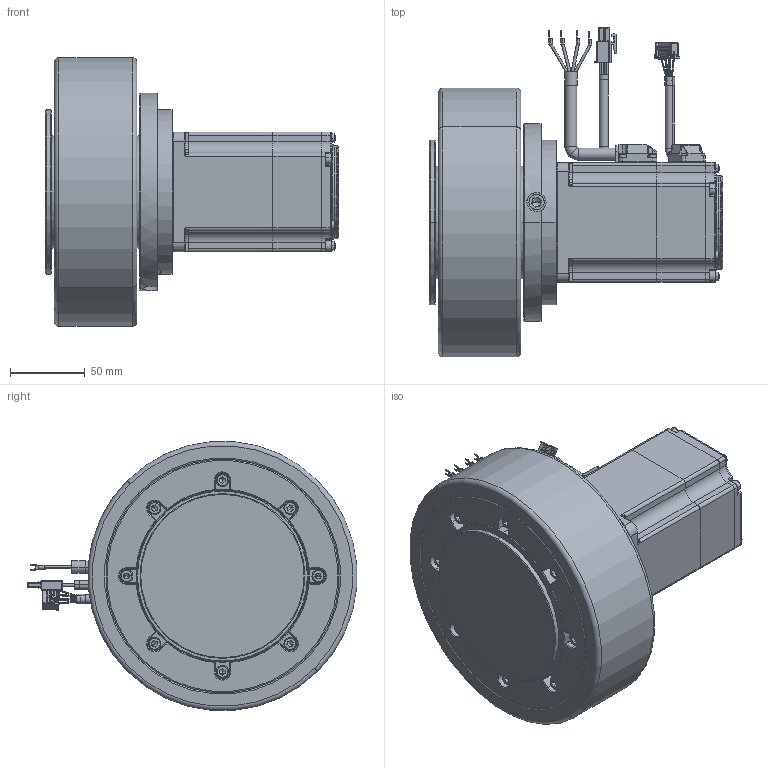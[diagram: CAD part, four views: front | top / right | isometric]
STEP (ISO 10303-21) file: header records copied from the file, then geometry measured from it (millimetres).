
FILE_DESCRIPTION((''),'2;1');
FILE_NAME('MSD180--075-30GSL-B_ASM','2026-05-29T14:36:40',('MS28159'),(''),'CREO PARAMETRIC BY PTC INC, 2018100','CREO PARAMETRIC BY PTC INC, 2018100','');
FILE_SCHEMA(('CONFIG_CONTROL_DESIGN'));
Length unit declared in the file: millimetre
Products named in the file (51): HEXAGON_SOCKET_HEAD_CAP_SC-5242; HEXAGON_SOCKET_HEAD_CAP_S-11438; SINGLE_COIL_LOCK_WASHERS_LIGH_3; HEX_SOCKET_SET_SCREWS_WITH_FL_2; AEQ-115-H55-W180_1; AEQ-115N-L2-19-1_X2_FF08_X0_1_2; 090-19_X2_8F7495017D275957_X0_2; AEQ-115N-016-19-1-H55-W180_ASM__ASM; AEQ-115N-016-10-19-2-H55-W180_A_ASM; HEXAGONSOCKETHEADC0038_1_1; _1_C-172165-1-H-3D0001_1_1_2; HEXAGONSOCKETHEADC0039_1_1; _1-SOLID10001_1_1_2; _1_-1-SOLID10001_1_1_2; HEXAGONSOCKETHEADC0040_1_1; CROSSRECESSEDSMALL0009_1_1_2; _1_5016461600-1-SO0001_1_1_2; CROSSRECESSEDSMALL0010_1_1_2; _1_AGV-2-SOLID10001_1_1_2; HEXAGONSOCKETHEADC0041_1_1; 4219122001590A0-1-0002_1_1; 2-1-SOLID100_1_1; CROSSRECESSEDCOUNT0004_1_1_2; CROSSRECESSEDPANHE0005_1_1; _1_--1-SOLID10001_1_1_2; _1_-1-SOLID10002_1_1_2; HEXAGONSOCKETHEADC0042_1_1; _1_AGV-1-SOLID10001_1_1_2; _1_AGV-3-SOLID10001_1_1_2; HEXAGONSOCKETHEADC0043_1_1; 3698154002184-1-SOLID1_1_1; _1-SOLID10002_1_1; HEXAGONSOCKETHEADC0044_1_1; HEXAGONSOCKETHEADC0016_1_1_2; CROSSRECESSEDPANHE0006_1_1; CROSSRECESSEDPANHE0007_1_1; CROSSRECESSEDPANHE0008_1_1; CROSSRECESSEDSMALL0013_1_1_2; _1_AGV-4-SOLID10001_1_1_2; _1_--1-SOLID10002_1_1_2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
Assembly tree (65 placements, depth 4):
  MSD180--075-30GSL-B_ASM
    AEQ-115N-016-10-19-2-H55-W180_A_ASM
      AEQ-115N-016-19-1-H55-W180_ASM__ASM
        HEXAGON_SOCKET_HEAD_CAP_SC-5242  x8
        HEXAGON_SOCKET_HEAD_CAP_S-11438
        SINGLE_COIL_LOCK_WASHERS_LIGH_3  x8
        HEX_SOCKET_SET_SCREWS_WITH_FL_2  x2
        AEQ-115-H55-W180_1
        AEQ-115N-L2-19-1_X2_FF08_X0_1_2
        090-19_X2_8F7495017D275957_X0_2
    ASM0003_ASM
      4611170005892_ASM_1_1_ASM
        HEXAGONSOCKETHEADC0038_1_1
        _1_C-172165-1-H-3D0001_1_1_2
        HEXAGONSOCKETHEADC0039_1_1
        _1-SOLID10001_1_1_2
        _1_-1-SOLID10001_1_1_2
        HEXAGONSOCKETHEADC0040_1_1
        CROSSRECESSEDSMALL0009_1_1_2
        _1_5016461600-1-SO0001_1_1_2
        CROSSRECESSEDSMALL0010_1_1_2
        _1_AGV-2-SOLID10001_1_1_2
        HEXAGONSOCKETHEADC0041_1_1
        4219122001590A0-1-0002_1_1
        2-1-SOLID100_1_1
        CROSSRECESSEDCOUNT0004_1_1_2
        CROSSRECESSEDPANHE0005_1_1
        _1_--1-SOLID10001_1_1_2
        _1_-1-SOLID10002_1_1_2
        HEXAGONSOCKETHEADC0042_1_1
        _1_AGV-1-SOLID10001_1_1_2
        _1_AGV-3-SOLID10001_1_1_2
        HEXAGONSOCKETHEADC0043_1_1
        3698154002184-1-SOLID1_1_1
        _1-SOLID10002_1_1
        HEXAGONSOCKETHEADC0044_1_1
        HEXAGONSOCKETHEADC0016_1_1_2
        CROSSRECESSEDPANHE0006_1_1
        CROSSRECESSEDPANHE0007_1_1
        CROSSRECESSEDPANHE0008_1_1
        CROSSRECESSEDSMALL0013_1_1_2
        _1_AGV-4-SOLID10001_1_1_2
        _1_--1-SOLID10002_1_1_2
        80750W1635-1_429440001_1_1
        3627410000860-1-SOLID1_1_1
        CROSSRECESSEDSMALL0014_1_1_2
        _220001_1_1_2
        _210001_1_1_2
        _230001_1_1
        _240001_1_1
        _30001_1_1
Bounding box: 195.7 x 219.96 x 179.31 mm (x, y, z)
Volume: 1850515.1 mm3; surface area: 328713.7 mm2
Topology: 61 solids, 61 shells, 2953 faces, 7679 edges, 4814 vertices
Faces by surface type: plane 1386, cylinder 877, torus 277, cone 277, sphere 80, bspline 38, extrusion 18
Entity records: 92470 total; most frequent: CARTESIAN_POINT 24103, DIRECTION 14671, ORIENTED_EDGE 13878, EDGE_CURVE 6939, AXIS2_PLACEMENT_3D 5465, VERTEX_POINT 4442, VECTOR 3741, LINE 3723
